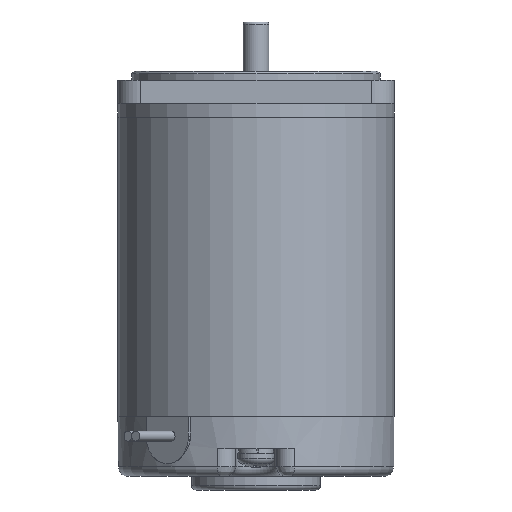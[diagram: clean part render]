
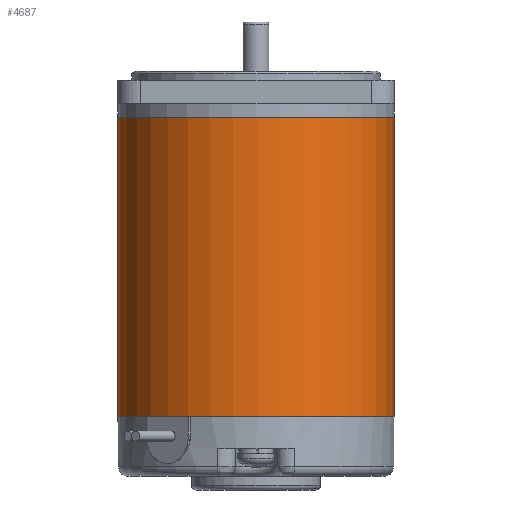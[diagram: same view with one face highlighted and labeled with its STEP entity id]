
A CAD part, left-side view. The second image highlights one B-rep face of the part: STEP entity #4687.
In plain terms, the highlighted cylindrical face has radius 30 mm (diameter 60 mm), a full revolution.
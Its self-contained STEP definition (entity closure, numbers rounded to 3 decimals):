
#4660=CARTESIAN_POINT('',(0.0,0.0,0.0));
#4661=DIRECTION('',(0.0,0.0,1.0));
#4662=DIRECTION('',(-1.0,0.0,0.0));
#4663=AXIS2_PLACEMENT_3D('',#4660,#4661,#4662);
#4664=CYLINDRICAL_SURFACE('',#4663,30.0);
#4665=CARTESIAN_POINT('',(30.0,0.,65.0));
#4666=VERTEX_POINT('',#4665);
#4667=CARTESIAN_POINT('',(0.0,0.0,65.0));
#4668=DIRECTION('',(0.0,0.0,-1.0));
#4669=DIRECTION('',(-1.0,0.0,0.0));
#4670=AXIS2_PLACEMENT_3D('',#4667,#4668,#4669);
#4671=CIRCLE('',#4670,30.0);
#4672=EDGE_CURVE('',#4666,#4666,#4671,.T.);
#4673=ORIENTED_EDGE('',*,*,#4672,.T.);
#4674=EDGE_LOOP('',(#4673));
#4675=FACE_OUTER_BOUND('',#4674,.T.);
#4676=CARTESIAN_POINT('',(30.0,0.,0.0));
#4677=VERTEX_POINT('',#4676);
#4678=CARTESIAN_POINT('',(0.0,0.0,0.0));
#4679=DIRECTION('',(0.0,0.0,-1.0));
#4680=DIRECTION('',(-1.0,0.0,0.0));
#4681=AXIS2_PLACEMENT_3D('',#4678,#4679,#4680);
#4682=CIRCLE('',#4681,30.0);
#4683=EDGE_CURVE('',#4677,#4677,#4682,.T.);
#4684=ORIENTED_EDGE('',*,*,#4683,.F.);
#4685=EDGE_LOOP('',(#4684));
#4686=FACE_BOUND('',#4685,.T.);
#4687=ADVANCED_FACE('',(#4675,#4686),#4664,.T.);
